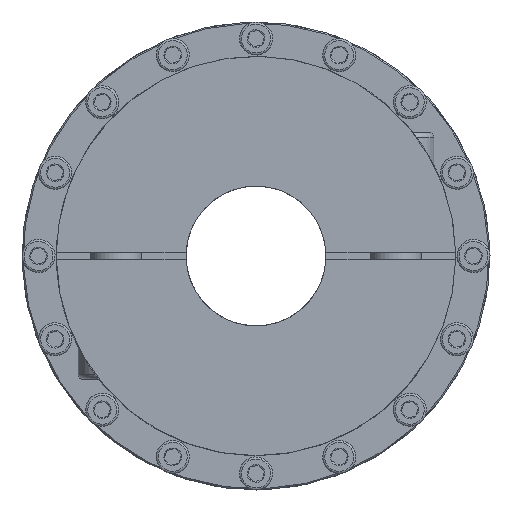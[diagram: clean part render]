
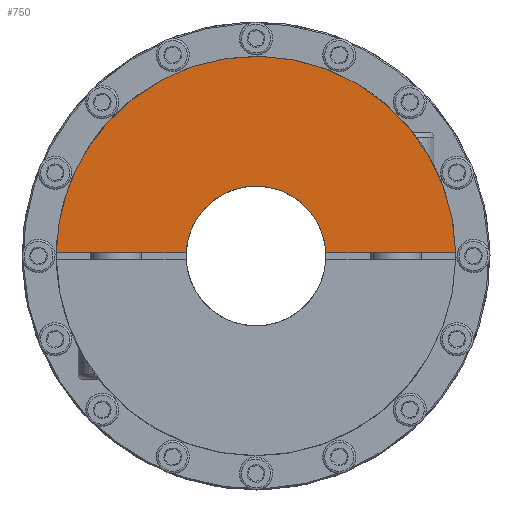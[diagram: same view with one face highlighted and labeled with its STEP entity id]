
A CAD part, left-side view. The second image highlights one B-rep face of the part: STEP entity #750.
In plain terms, the highlighted planar face has unit normal (-1, 0, 0) as drawn and (1, 0, 0) by its records, which use the part's own axes.
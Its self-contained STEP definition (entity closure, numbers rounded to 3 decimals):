
#750 = ADVANCED_FACE( '', ( #1479 ), #1480, .T. );
#1479 = FACE_OUTER_BOUND( '', #2377, .T. );
#1480 = PLANE( '', #2378 );
#2377 = EDGE_LOOP( '', ( #3467, #3468, #3469, #3470 ) );
#2378 = AXIS2_PLACEMENT_3D( '', #3471, #3472, #3473 );
#3467 = ORIENTED_EDGE( '', *, *, #4723, .F. );
#3468 = ORIENTED_EDGE( '', *, *, #4506, .F. );
#3469 = ORIENTED_EDGE( '', *, *, #4717, .F. );
#3470 = ORIENTED_EDGE( '', *, *, #4724, .T. );
#3471 = CARTESIAN_POINT( '', ( 38.215, 0., 78.5 ) );
#3472 = DIRECTION( '', ( 1., 0., 0. ) );
#3473 = DIRECTION( '', ( 0., 0., -1. ) );
#4506 = EDGE_CURVE( '', #5073, #5075, #5076, .T. );
#4717 = EDGE_CURVE( '', #5425, #5073, #5427, .T. );
#4723 = EDGE_CURVE( '', #5075, #5436, #5437, .T. );
#4724 = EDGE_CURVE( '', #5425, #5436, #5438, .T. );
#5073 = VERTEX_POINT( '', #6300 );
#5075 = VERTEX_POINT( '', #6303 );
#5076 = CIRCLE( '', #6304, 78.5 );
#5425 = VERTEX_POINT( '', #6735 );
#5427 = LINE( '', #6738, #6739 );
#5436 = VERTEX_POINT( '', #6748 );
#5437 = LINE( '', #6749, #6750 );
#5438 = CIRCLE( '', #6751, 27.5 );
#6300 = CARTESIAN_POINT( '', ( 38.215, -78.49, 1.25 ) );
#6303 = CARTESIAN_POINT( '', ( 38.215, 78.49, 1.25 ) );
#6304 = AXIS2_PLACEMENT_3D( '', #7328, #7329, #7330 );
#6735 = CARTESIAN_POINT( '', ( 38.215, -27.472, 1.25 ) );
#6738 = CARTESIAN_POINT( '', ( 38.215, 0., 1.25 ) );
#6739 = VECTOR( '', #7721, 1000. );
#6748 = CARTESIAN_POINT( '', ( 38.215, 27.472, 1.25 ) );
#6749 = CARTESIAN_POINT( '', ( 38.215, 0., 1.25 ) );
#6750 = VECTOR( '', #7731, 1000. );
#6751 = AXIS2_PLACEMENT_3D( '', #7732, #7733, #7734 );
#7328 = CARTESIAN_POINT( '', ( 38.215, 0., 0. ) );
#7329 = DIRECTION( '', ( -1., 0., 0. ) );
#7330 = DIRECTION( '', ( 0., 0., 1. ) );
#7721 = DIRECTION( '', ( 0., -1., 0. ) );
#7731 = DIRECTION( '', ( 0., -1., 0. ) );
#7732 = CARTESIAN_POINT( '', ( 38.215, 0., 0. ) );
#7733 = DIRECTION( '', ( -1., 0., 0. ) );
#7734 = DIRECTION( '', ( 0., 0., 1. ) );
